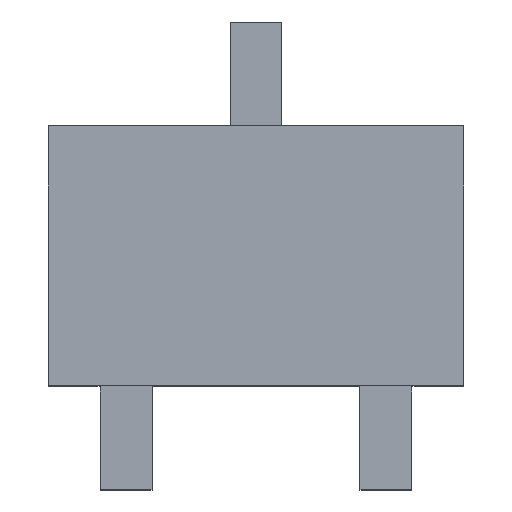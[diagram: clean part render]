
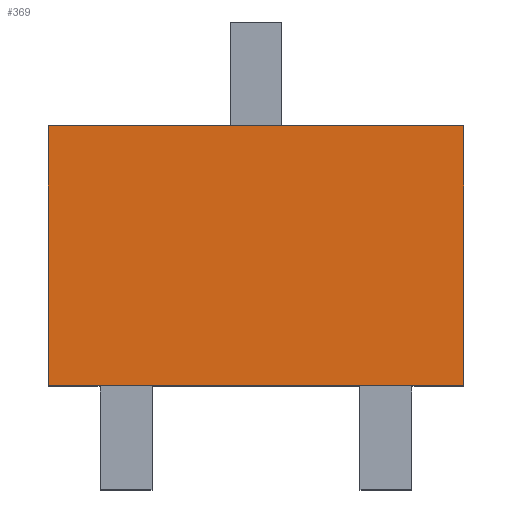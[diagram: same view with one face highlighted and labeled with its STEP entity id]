
A CAD part, top view. The second image highlights one B-rep face of the part: STEP entity #369.
In plain terms, the highlighted planar face has unit normal (0, 0, 1).
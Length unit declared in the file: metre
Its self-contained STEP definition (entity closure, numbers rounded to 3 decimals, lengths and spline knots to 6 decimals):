
#76=ORIENTED_EDGE('',*,*,#148,.T.);
#77=ORIENTED_EDGE('',*,*,#149,.T.);
#78=ORIENTED_EDGE('',*,*,#150,.T.);
#79=ORIENTED_EDGE('',*,*,#151,.T.);
#148=EDGE_CURVE('',#184,#185,#228,.T.);
#149=EDGE_CURVE('',#185,#186,#229,.T.);
#150=EDGE_CURVE('',#186,#187,#230,.T.);
#151=EDGE_CURVE('',#187,#184,#231,.T.);
#184=VERTEX_POINT('',#685);
#185=VERTEX_POINT('',#686);
#186=VERTEX_POINT('',#688);
#187=VERTEX_POINT('',#690);
#228=LINE('',#684,#276);
#229=LINE('',#687,#277);
#230=LINE('',#689,#278);
#231=LINE('',#691,#279);
#276=VECTOR('',#585,1.);
#277=VECTOR('',#586,1.);
#278=VECTOR('',#587,1.);
#279=VECTOR('',#588,1.);
#297=EDGE_LOOP('',(#76,#77,#78,#79));
#315=FACE_BOUND('',#297,.T.);
#333=PLANE('',#510);
#369=ADVANCED_FACE('',(#315),#333,.T.);
#510=AXIS2_PLACEMENT_3D('',#683,#583,#584);
#583=DIRECTION('',(0.,0.,1.));
#584=DIRECTION('',(0.,-1.,0.));
#585=DIRECTION('',(0.,1.,0.));
#586=DIRECTION('',(-1.,0.,0.));
#587=DIRECTION('',(0.,-1.,0.));
#588=DIRECTION('',(1.,0.,0.));
#683=CARTESIAN_POINT('',(0.0065,0.0072,0.0011));
#684=CARTESIAN_POINT('',(0.0073,0.0077,0.0011));
#685=CARTESIAN_POINT('',(0.0073,0.0067,0.0011));
#686=CARTESIAN_POINT('',(0.0073,0.0077,0.0011));
#687=CARTESIAN_POINT('',(0.0057,0.0077,0.0011));
#688=CARTESIAN_POINT('',(0.0057,0.0077,0.0011));
#689=CARTESIAN_POINT('',(0.0057,0.0077,0.0011));
#690=CARTESIAN_POINT('',(0.0057,0.0067,0.0011));
#691=CARTESIAN_POINT('',(0.0057,0.0067,0.0011));
